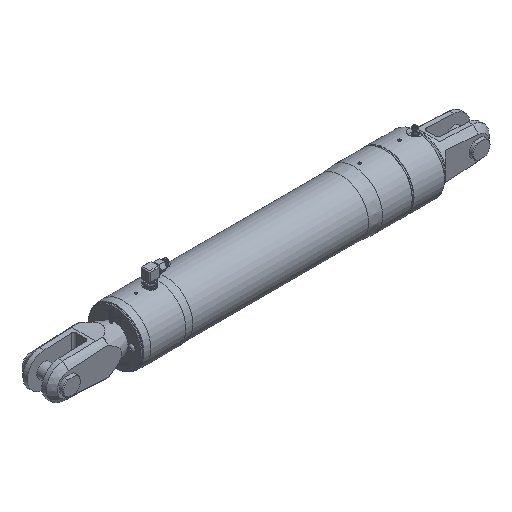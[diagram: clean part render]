
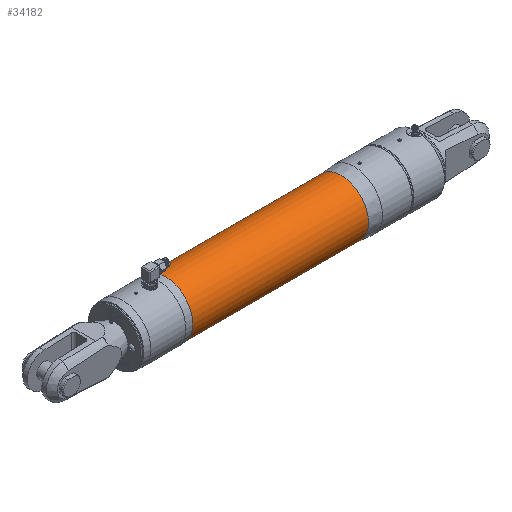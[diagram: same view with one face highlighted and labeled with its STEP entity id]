
A CAD part, isometric view. The second image highlights one B-rep face of the part: STEP entity #34182.
In plain terms, the highlighted cylindrical face has radius 60.3 mm (diameter 120.6 mm), a full revolution.
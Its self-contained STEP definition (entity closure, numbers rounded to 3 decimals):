
#4792=LINE('',#61755,#7766);
#7766=VECTOR('',#41202,60.3);
#8084=CYLINDRICAL_SURFACE('',#35653,60.3);
#11418=FACE_OUTER_BOUND('',#13336,.T.);
#13336=EDGE_LOOP('',(#30363,#30364,#30365,#30366,#30367,#30368));
#13842=CIRCLE('',#35650,60.3);
#13843=CIRCLE('',#35651,60.3);
#13845=CIRCLE('',#35654,60.3);
#13846=CIRCLE('',#35655,60.3);
#16838=VERTEX_POINT('',#61747);
#16839=VERTEX_POINT('',#61749);
#16840=VERTEX_POINT('',#61754);
#16841=VERTEX_POINT('',#61756);
#21413=EDGE_CURVE('',#16839,#16838,#13842,.T.);
#21414=EDGE_CURVE('',#16838,#16839,#13843,.T.);
#21416=EDGE_CURVE('',#16838,#16840,#4792,.T.);
#21417=EDGE_CURVE('',#16841,#16840,#13845,.T.);
#21418=EDGE_CURVE('',#16840,#16841,#13846,.T.);
#30363=ORIENTED_EDGE('',*,*,#21413,.T.);
#30364=ORIENTED_EDGE('',*,*,#21416,.T.);
#30365=ORIENTED_EDGE('',*,*,#21417,.F.);
#30366=ORIENTED_EDGE('',*,*,#21418,.F.);
#30367=ORIENTED_EDGE('',*,*,#21416,.F.);
#30368=ORIENTED_EDGE('',*,*,#21414,.T.);
#34182=ADVANCED_FACE('',(#11418),#8084,.T.);
#35650=AXIS2_PLACEMENT_3D('',#61750,#41194,#41195);
#35651=AXIS2_PLACEMENT_3D('',#61751,#41196,#41197);
#35653=AXIS2_PLACEMENT_3D('',#61753,#41200,#41201);
#35654=AXIS2_PLACEMENT_3D('',#61757,#41203,#41204);
#35655=AXIS2_PLACEMENT_3D('',#61758,#41205,#41206);
#41194=DIRECTION('center_axis',(1.,0.,0.));
#41195=DIRECTION('ref_axis',(0.,0.,
-1.));
#41196=DIRECTION('center_axis',(1.,0.,0.));
#41197=DIRECTION('ref_axis',(0.,0.,
-1.));
#41200=DIRECTION('center_axis',(1.,0.,0.));
#41201=DIRECTION('ref_axis',(0.,0.,
1.));
#41202=DIRECTION('',(1.,0.,0.));
#41203=DIRECTION('center_axis',(1.,0.,0.));
#41204=DIRECTION('ref_axis',(0.,0.,
-1.));
#41205=DIRECTION('center_axis',(1.,0.,0.));
#41206=DIRECTION('ref_axis',(0.,0.,
-1.));
#61747=CARTESIAN_POINT('',(-472.734,0.,-60.3));
#61749=CARTESIAN_POINT('',(-472.734,0.,60.3));
#61750=CARTESIAN_POINT('Origin',(-472.734,0.,
0.));
#61751=CARTESIAN_POINT('Origin',(-472.734,0.,
0.));
#61753=CARTESIAN_POINT('Origin',(-278.769,0.,
0.));
#61754=CARTESIAN_POINT('',(-84.804,0.,-60.3));
#61755=CARTESIAN_POINT('',(-278.769,0.,-60.3));
#61756=CARTESIAN_POINT('',(-84.804,0.,60.3));
#61757=CARTESIAN_POINT('Origin',(-84.804,0.,
0.));
#61758=CARTESIAN_POINT('Origin',(-84.804,0.,
0.));
